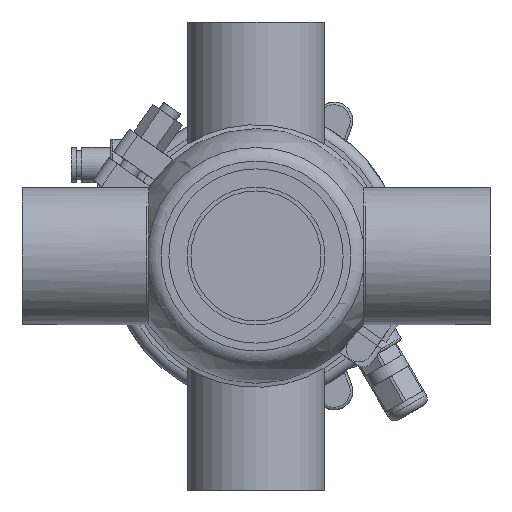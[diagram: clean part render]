
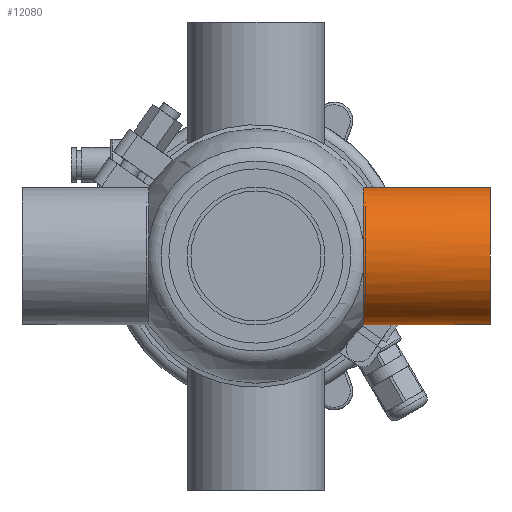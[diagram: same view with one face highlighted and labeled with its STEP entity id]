
A CAD part, front view. The second image highlights one B-rep face of the part: STEP entity #12080.
In plain terms, the highlighted cylindrical face has radius 26.5 mm (diameter 53 mm), a full revolution.
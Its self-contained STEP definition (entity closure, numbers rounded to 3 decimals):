
#253 = CARTESIAN_POINT ( 'NONE',  ( 90., 0., 26.5 ) ) ;
#1981 = AXIS2_PLACEMENT_3D ( 'NONE', #43644, #47988, #48295 ) ;
#3567 = CARTESIAN_POINT ( 'NONE',  ( 41.216, 0., 0. ) ) ;
#5471 = CARTESIAN_POINT ( 'NONE',  ( 0., 0., 0. ) ) ;
#7219 = VERTEX_POINT ( 'NONE', #20111 ) ;
#10226 = EDGE_CURVE ( 'NONE', #7219, #49689, #36940, .T. ) ;
#12080 = ADVANCED_FACE ( 'NONE', ( #57365, #48986 ), #14826, .T. ) ;
#12718 = AXIS2_PLACEMENT_3D ( 'NONE', #3567, #41177, #36492 ) ;
#14221 = VERTEX_POINT ( 'NONE', #253 ) ;
#14826 = CYLINDRICAL_SURFACE ( 'NONE', #52309, 26.5 ) ;
#17756 = CARTESIAN_POINT ( 'NONE',  ( 41.162, -26.42, -2.131 ) ) ;
#20111 = CARTESIAN_POINT ( 'NONE',  ( 41.216, -25.714, 6.407 ) ) ;
#21518 = CARTESIAN_POINT ( 'NONE',  ( 41.216, -25.976, -5.353 ) ) ;
#22135 = CARTESIAN_POINT ( 'NONE',  ( 41.216, -25.714, -6.407 ) ) ;
#25375 = DIRECTION ( 'NONE',  ( 0., 0., 1. ) ) ;
#26146 = CARTESIAN_POINT ( 'NONE',  ( 41.196, -26.172, 4.294 ) ) ;
#26455 = CARTESIAN_POINT ( 'NONE',  ( 41.151, -26.485, -1.052 ) ) ;
#27066 = CARTESIAN_POINT ( 'NONE',  ( 41.17, -26.37, -2.673 ) ) ;
#31429 = CARTESIAN_POINT ( 'NONE',  ( 41.162, -26.433, 2.166 ) ) ;
#32175 = ORIENTED_EDGE ( 'NONE', *, *, #39174, .T. ) ;
#35797 = CARTESIAN_POINT ( 'NONE',  ( 41.148, -26.499, 1.097 ) ) ;
#35930 = EDGE_LOOP ( 'NONE', ( #32175, #55689 ) ) ;
#36382 = CARTESIAN_POINT ( 'NONE',  ( 41.216, -25.714, 6.407 ) ) ;
#36492 = DIRECTION ( 'NONE',  ( 0., 0., 1. ) ) ;
#36940 = B_SPLINE_CURVE_WITH_KNOTS ( 'NONE', 3,
 ( #36382, #55344, #26146, #31429, #35797, #46032, #26455, #17756, #27066, #59388, #21518, #22135 ),
 .UNSPECIFIED., .F., .F.,
 ( 4, 2, 2, 2, 2, 4 ),
 ( 0., 0.003, 0.006, 0.008, 0.01, 0.013 ),
 .UNSPECIFIED. ) ;
#39174 = EDGE_CURVE ( 'NONE', #49689, #7219, #42475, .T. ) ;
#41177 = DIRECTION ( 'NONE',  ( 1., 0., 0. ) ) ;
#41914 = EDGE_CURVE ( 'NONE', #14221, #14221, #43658, .T. ) ;
#42475 = CIRCLE ( 'NONE', #12718, 26.5 ) ;
#43644 = CARTESIAN_POINT ( 'NONE',  ( 90., 0., 0. ) ) ;
#43658 = CIRCLE ( 'NONE', #1981, 26.5 ) ;
#44654 = CARTESIAN_POINT ( 'NONE',  ( 41.216, -25.714, -6.407 ) ) ;
#46032 = CARTESIAN_POINT ( 'NONE',  ( 41.148, -26.5, -0.514 ) ) ;
#46170 = ORIENTED_EDGE ( 'NONE', *, *, #41914, .T. ) ;
#47988 = DIRECTION ( 'NONE',  ( -1., 0., 0. ) ) ;
#48295 = DIRECTION ( 'NONE',  ( 0., 0., 1. ) ) ;
#48986 = FACE_OUTER_BOUND ( 'NONE', #61086, .T. ) ;
#49689 = VERTEX_POINT ( 'NONE', #44654 ) ;
#52309 = AXIS2_PLACEMENT_3D ( 'NONE', #5471, #53649, #25375 ) ;
#53649 = DIRECTION ( 'NONE',  ( -1., 0., 0. ) ) ;
#55344 = CARTESIAN_POINT ( 'NONE',  ( 41.216, -25.976, 5.353 ) ) ;
#55689 = ORIENTED_EDGE ( 'NONE', *, *, #10226, .T. ) ;
#57365 = FACE_OUTER_BOUND ( 'NONE', #35930, .T. ) ;
#59388 = CARTESIAN_POINT ( 'NONE',  ( 41.196, -26.173, -4.288 ) ) ;
#61086 = EDGE_LOOP ( 'NONE', ( #46170 ) ) ;
